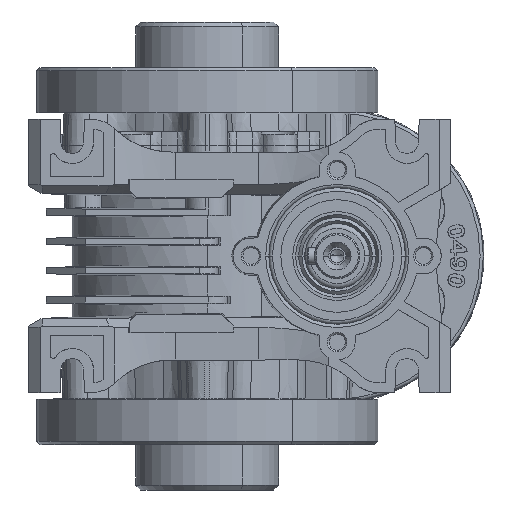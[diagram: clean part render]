
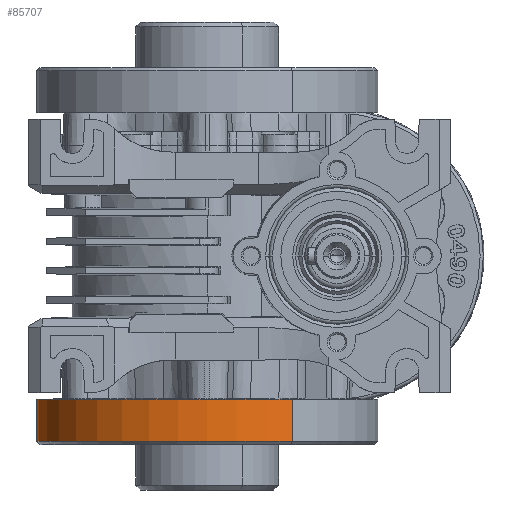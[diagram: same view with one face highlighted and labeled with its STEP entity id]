
A CAD part, left-side view. The second image highlights one B-rep face of the part: STEP entity #85707.
In plain terms, the highlighted cylindrical face has radius 52.5 mm (diameter 105 mm), a partial arc.
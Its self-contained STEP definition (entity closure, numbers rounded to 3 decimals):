
#5864 = VERTEX_POINT ( 'NONE', #47965 ) ;
#7174 = ORIENTED_EDGE ( 'NONE', *, *, #49897, .T. ) ;
#11428 = DIRECTION ( 'NONE',  ( 0.866, 0.5, 0. ) ) ;
#17538 = DIRECTION ( 'NONE',  ( 0., 0., 1. ) ) ;
#18800 = CARTESIAN_POINT ( 'NONE',  ( 0., 0., -57. ) ) ;
#24129 = DIRECTION ( 'NONE',  ( 0., 0., 1. ) ) ;
#29041 = CARTESIAN_POINT ( 'NONE',  ( 0., 0., -44. ) ) ;
#33210 = DIRECTION ( 'NONE',  ( 0.866, 0.5, 0. ) ) ;
#35672 = AXIS2_PLACEMENT_3D ( 'NONE', #18800, #42382, #33210 ) ;
#35747 = VECTOR ( 'NONE', #17538, 1000. ) ;
#38019 = EDGE_CURVE ( 'NONE', #91789, #5864, #63076, .T. ) ;
#41214 = CYLINDRICAL_SURFACE ( 'NONE', #89838, 52.5 ) ;
#42131 = ORIENTED_EDGE ( 'NONE', *, *, #38019, .F. ) ;
#42228 = CARTESIAN_POINT ( 'NONE',  ( 45.466, 26.25, -44. ) ) ;
#42382 = DIRECTION ( 'NONE',  ( 0., 0., 1. ) ) ;
#46709 = CARTESIAN_POINT ( 'NONE',  ( -45.466, -26.25, -44. ) ) ;
#47965 = CARTESIAN_POINT ( 'NONE',  ( -45.466, -26.25, -44. ) ) ;
#49897 = EDGE_CURVE ( 'NONE', #75133, #77340, #99570, .T. ) ;
#53589 = ORIENTED_EDGE ( 'NONE', *, *, #85010, .F. ) ;
#57081 = DIRECTION ( 'NONE',  ( 0., 0., 1. ) ) ;
#59381 = EDGE_CURVE ( 'NONE', #77340, #5864, #85710, .T. ) ;
#60794 = DIRECTION ( 'NONE',  ( 0., 0., 1. ) ) ;
#63076 = CIRCLE ( 'NONE', #90921, 52.5 ) ;
#64696 = CARTESIAN_POINT ( 'NONE',  ( 45.466, 26.25, -44. ) ) ;
#72494 = CARTESIAN_POINT ( 'NONE',  ( 0., 0., -44. ) ) ;
#73494 = FACE_OUTER_BOUND ( 'NONE', #85923, .T. ) ;
#75133 = VERTEX_POINT ( 'NONE', #75663 ) ;
#75663 = CARTESIAN_POINT ( 'NONE',  ( 45.466, 26.25, -57. ) ) ;
#77340 = VERTEX_POINT ( 'NONE', #94793 ) ;
#78564 = ORIENTED_EDGE ( 'NONE', *, *, #59381, .T. ) ;
#84386 = VECTOR ( 'NONE', #24129, 1000. ) ;
#85010 = EDGE_CURVE ( 'NONE', #75133, #91789, #87798, .T. ) ;
#85707 = ADVANCED_FACE ( 'NONE', ( #73494 ), #41214, .T. ) ;
#85710 = LINE ( 'NONE', #46709, #84386 ) ;
#85923 = EDGE_LOOP ( 'NONE', ( #7174, #78564, #42131, #53589 ) ) ;
#87798 = LINE ( 'NONE', #64696, #35747 ) ;
#89838 = AXIS2_PLACEMENT_3D ( 'NONE', #72494, #57081, #11428 ) ;
#90921 = AXIS2_PLACEMENT_3D ( 'NONE', #29041, #60794, #93109 ) ;
#91789 = VERTEX_POINT ( 'NONE', #42228 ) ;
#93109 = DIRECTION ( 'NONE',  ( 0.866, 0.5, 0. ) ) ;
#94793 = CARTESIAN_POINT ( 'NONE',  ( -45.466, -26.25, -57. ) ) ;
#99570 = CIRCLE ( 'NONE', #35672, 52.5 ) ;
